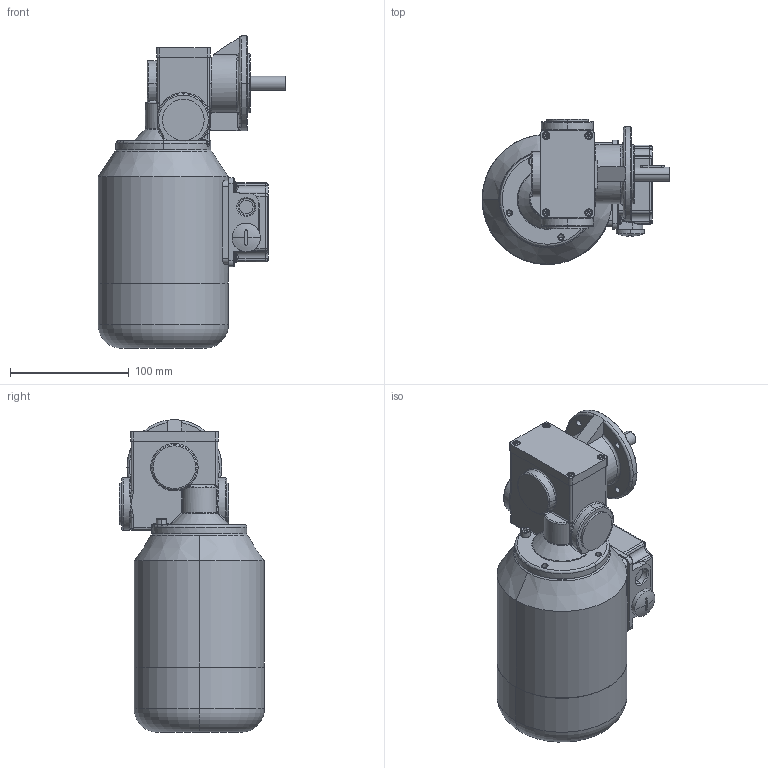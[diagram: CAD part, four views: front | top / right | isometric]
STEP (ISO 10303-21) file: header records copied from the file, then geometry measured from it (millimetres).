
FILE_DESCRIPTION (( 'STEP AP214' ), '1' );
FILE_NAME ('SN6F_120W_2800Upm_Drehstrom-Motor_B.STEP', '2021-08-10T08:48:45', ( '' ), ( '' ), 'SwSTEP 2.0', 'SolidWorks 2019', '' );
FILE_SCHEMA (( 'AUTOMOTIVE_DESIGN' ));
Length unit declared in the file: millimetre
Products named in the file (11): 06-S-002; 06F-W-003_3D-Export; SN6F_3D-Export_alte Verschlusskappe 06-S-002; 06-M-066 I 120W_2800Upm; PF_A4x4x20; socket head cap screw_din_DIN 912 M5 x 16 --- 16C; 06F-D-003_3D-Export; socket head cap screw_din_DIN 912 M3 x 10 --- 10C; SN6F_120W_2800Upm_Drehstrom-Motor_B; NBR_WDR_12x32x7; 06F-G-002_3D-Export
Assembly tree (14 placements, depth 3):
  SN6F_120W_2800Upm_Drehstrom-Motor_B
    SN6F_3D-Export_alte Verschlusskappe 06-S-002
      06F-G-002_3D-Export
      06F-D-003_3D-Export
      06F-W-003_3D-Export
      socket head cap screw_din_DIN 912 M3 x 10 --- 10C  x4
      socket head cap screw_din_DIN 912 M5 x 16 --- 16C
      NBR_WDR_12x32x7
      PF_A4x4x20
      06-S-002  x2
    06-M-066 I 120W_2800Upm
Bounding box: 158.5 x 122.3 x 263.5 mm (x, y, z)
Volume: 2012702.8 mm3; surface area: 173249.7 mm2
Topology: 14 solids, 14 shells, 889 faces, 2185 edges, 1318 vertices
Faces by surface type: cylinder 279, plane 215, torus 162, cone 146, bspline 59, sphere 28
Entity records: 28637 total; most frequent: CARTESIAN_POINT 9248, DIRECTION 4199, ORIENTED_EDGE 3880, EDGE_CURVE 1940, AXIS2_PLACEMENT_3D 1791, VERTEX_POINT 1205, CIRCLE 1036, EDGE_LOOP 863
